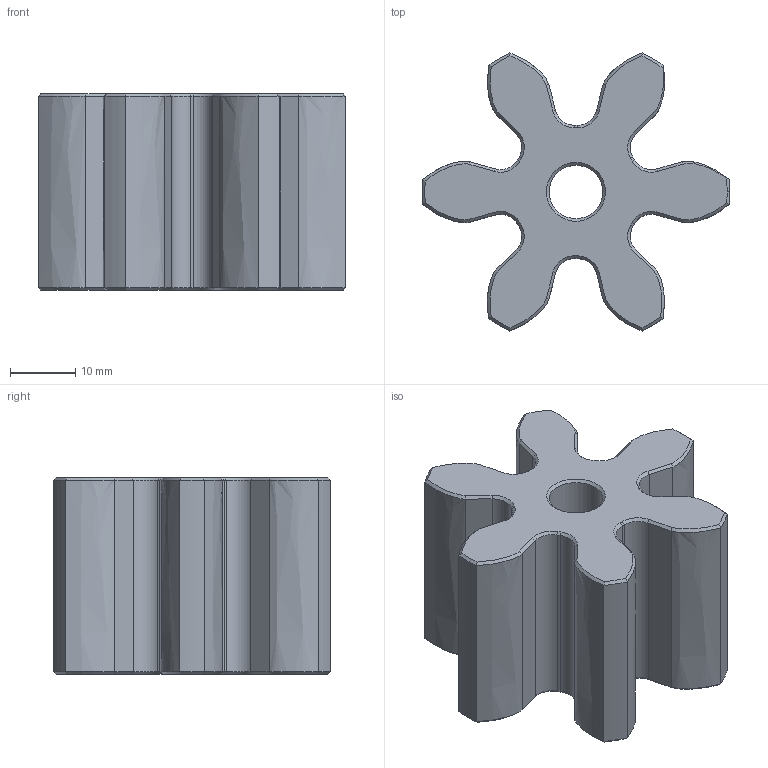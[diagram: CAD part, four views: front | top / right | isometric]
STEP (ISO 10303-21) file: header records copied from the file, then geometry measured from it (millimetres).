
FILE_DESCRIPTION(('FreeCAD Model'),'2;1');
FILE_NAME('Open CASCADE Shape Model','2022-10-12T14:20:31',(''),(''), 'Open CASCADE STEP processor 7.6','FreeCAD','Unknown');
FILE_SCHEMA(('AUTOMOTIVE_DESIGN { 1 0 10303 214 1 1 1 1 }'));
Length unit declared in the file: millimetre
Products named in the file (1): Chamfer
Bounding box: 46.99 x 42.44 x 30 mm (x, y, z)
Volume: 26768.1 mm3; surface area: 8933.7 mm2
Topology: 1 solids, 1 shells, 152 faces, 354 edges, 204 vertices
Faces by surface type: bspline 84, extrusion 27, cone 20, plane 11, cylinder 10
Full cylindrical faces by diameter (mm): 8.2 x1
Entity records: 20119 total; most frequent: CARTESIAN_POINT 14398, ORIENTED_EDGE 708, PCURVE 708, DEFINITIONAL_REPRESENTATION 708, B_SPLINE_CURVE_WITH_KNOTS 697, DIRECTION 531, VECTOR 359, EDGE_CURVE 354
